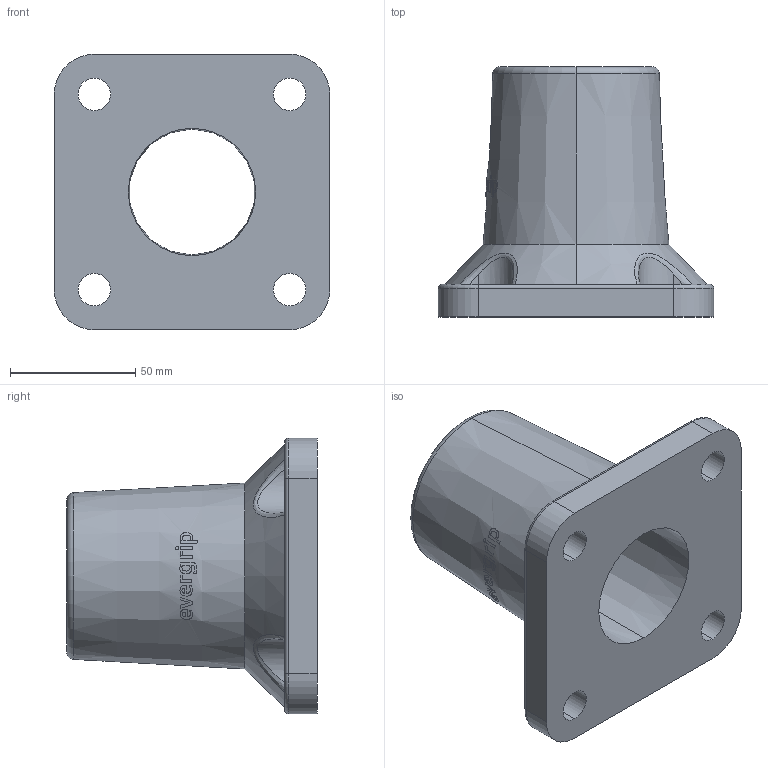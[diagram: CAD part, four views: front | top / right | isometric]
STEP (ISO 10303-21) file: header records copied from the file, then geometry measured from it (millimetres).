
FILE_DESCRIPTION (( 'STEP AP203' ), '1' );
FILE_NAME ('KIE_018.A18.STEP', '2025-02-18T09:51:53', ( '' ), ( '' ), 'SwSTEP 2.0', 'SolidWorks 2023', '' );
FILE_SCHEMA (( 'CONFIG_CONTROL_DESIGN' ));
Length unit declared in the file: millimetre
Products named in the file (1): KIE_018.A18
Bounding box: 110 x 100 x 110 mm (x, y, z)
Volume: 319575.5 mm3; surface area: 58893.3 mm2
Topology: 1 solids, 1 shells, 58 faces, 267 edges, 225 vertices
Faces by surface type: cylinder 22, cone 19, plane 7, torus 6, bspline 4
Entity records: 6223 total; most frequent: CARTESIAN_POINT 4156, ORIENTED_EDGE 534, EDGE_CURVE 267, DIRECTION 266, VERTEX_POINT 225, B_SPLINE_CURVE_WITH_KNOTS 171, AXIS2_PLACEMENT_3D 115, EDGE_LOOP 82
